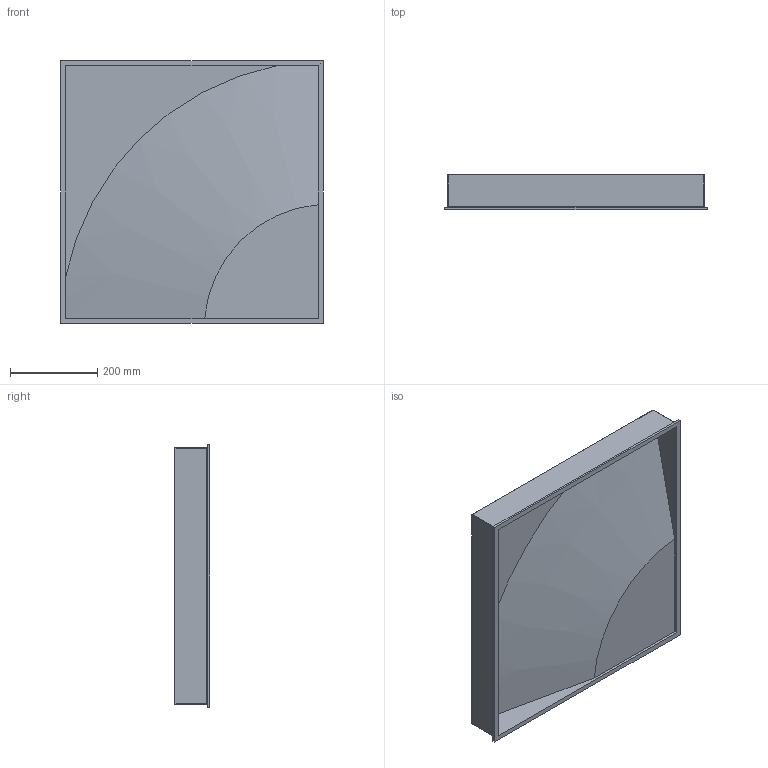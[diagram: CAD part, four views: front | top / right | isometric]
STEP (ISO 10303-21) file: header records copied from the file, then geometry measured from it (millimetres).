
FILE_DESCRIPTION(/* description */ (''),/* implementation_level */ '2;1');
FILE_NAME(/* name */ 'W:\Customers\Welformed unVerb\Design\2019 January Show Ceiling Tile Protos_\Part Design\Quad Circle Ceiling Tile.stp',/* time_stamp */ '2022-02-10T09:41:51-05:00',/* author */ ('austinh'),/* organization */ (''),/* preprocessor_version */ 'ST-DEVELOPER v18',/* originating_system */ 'Autodesk Inventor 2020',/* authorisation */ '');
FILE_SCHEMA (('AUTOMOTIVE_DESIGN { 1 0 10303 214 3 1 1 }'));
Length unit declared in the file: inch
Products named in the file (1): Quad Circle Ceiling Tile -2
Bounding box: 601.98 x 81.2 x 601.98 mm (x, y, z)
Volume: 2425691.8 mm3; surface area: 979056.8 mm2
Topology: 1 solids, 1 shells, 44 faces, 102 edges, 62 vertices
Faces by surface type: plane 18, cylinder 12, torus 6, bspline 4, sphere 2, cone 2
Entity records: 1395 total; most frequent: CARTESIAN_POINT 383, ORIENTED_EDGE 204, DIRECTION 198, EDGE_CURVE 102, AXIS2_PLACEMENT_3D 75, VERTEX_POINT 62, LINE 48, VECTOR 48
